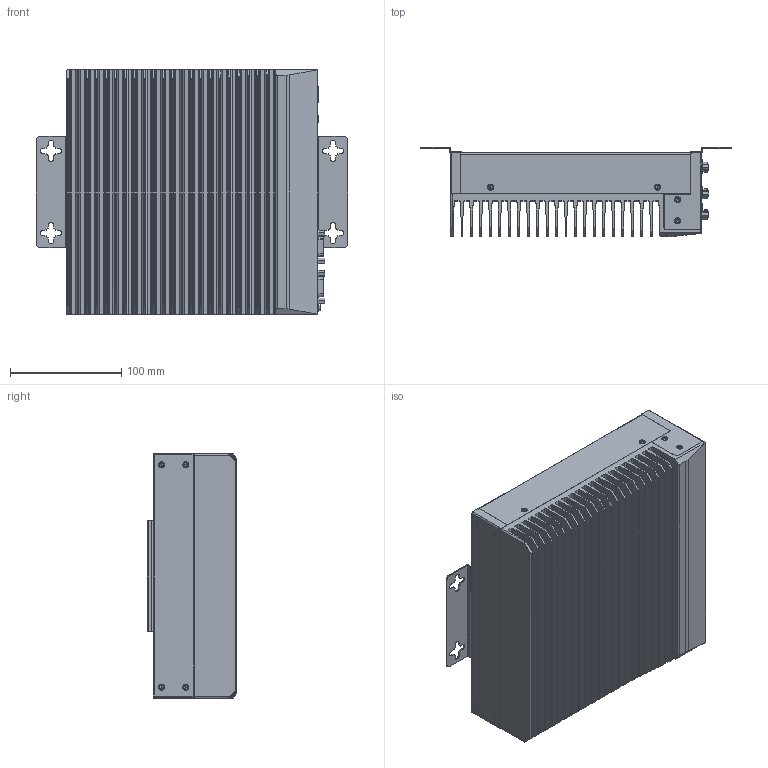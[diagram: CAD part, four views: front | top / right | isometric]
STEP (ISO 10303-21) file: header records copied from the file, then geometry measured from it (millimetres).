
FILE_DESCRIPTION (( 'STEP AP214' ), '1' );
FILE_NAME ('V32X.STEP', '2023-08-16T02:16:54', ( '' ), ( '' ), 'SwSTEP 2.0', 'SolidWorks 2017', '' );
FILE_SCHEMA (( 'AUTOMOTIVE_DESIGN' ));
Length unit declared in the file: millimetre
Products named in the file (32): AUDIO_1; GB／T95-2002平垫圈C级3×0．5; 4P-POWER_3; V32X; IO-COVER_67; LED_2; SUPPORT-SPCC_3; MB_ASM_12_ASM; GB823-88十字槽小盘头螺钉M3×5; VGA_2; POWER-SWITCH-1111_2; COM-9PIN_2; MB-IO-1_ASM_18_ASM; 2-COM-9PIN_ASM_2_ASM; DP-DP_2_ASM; COVER-SECC_45; USB-3-LAN_2; TOP_89; USB-2_1; GB_X2_FFFD_X0_T819_X2_FFFD_X0_1-2000_X2_02AEFFFD05B206F3_FFFD0377FFFD0776FFFD_X0_M3_X2_FFFDFFFD_X0_12; RIGHT-COVER_34; ZZJ_ASM_9_ASM; MANIFOLD_SOLID_BREP_36774; MANIFOLD_SOLID_BREP_36413; D-COM-H-9PIN_1; RXE-2100_ASM_247_ASM; POWER-11_2; ZZJ_93; RJ45-11_3; D-SUB-RAM-9PIN_1; _X2_FFFDFFFD0138_X0_1; 3PIN_2
Assembly tree (67 placements, depth 5):
  V32X
    RXE-2100_ASM_247_ASM
      TOP_89
      MB_ASM_12_ASM
        3PIN_2
        AUDIO_1
        USB-3-LAN_2  x3
        DP-DP_2_ASM
          MANIFOLD_SOLID_BREP_36413
          MANIFOLD_SOLID_BREP_36774
        2-COM-9PIN_ASM_2_ASM
          D-SUB-RAM-9PIN_1  x2
        VGA_2
        LED_2
        POWER-SWITCH-1111_2
        D-COM-H-9PIN_1
        POWER-11_2
      MB-IO-1_ASM_18_ASM
        COM-9PIN_2  x2
        4P-POWER_3
        USB-2_1  x2
        RJ45-11_3  x3
      ZZJ_ASM_9_ASM
        ZZJ_93
      RIGHT-COVER_34
      IO-COVER_67
      COVER-SECC_45
      SUPPORT-SPCC_3  x2
    _X2_FFFDFFFD0138_X0_1  x10
    GB_X2_FFFD_X0_T819_X2_FFFD_X0_1-2000_X2_02AEFFFD05B206F3_FFFD0377FFFD0776FFFD_X0_M3_X2_FFFDFFFD_X0_12  x20
    GB／T95-2002平垫圈C级3×0．5
    GB823-88十字槽小盘头螺钉M3×5
Bounding box: 279.7 x 80 x 220.2 mm (x, y, z)
Volume: 893322 mm3; surface area: 702161.8 mm2
Topology: 61 solids, 61 shells, 3823 faces, 9109 edges, 5733 vertices
Faces by surface type: plane 1969, cylinder 1499, bspline 199, cone 112, torus 42, sphere 2
Entity records: 98281 total; most frequent: CARTESIAN_POINT 27797, ORIENTED_EDGE 11886, DIRECTION 11431, EDGE_CURVE 5943, AXIS2_PLACEMENT_3D 4001, VERTEX_POINT 3868, LINE 3429, VECTOR 3429
